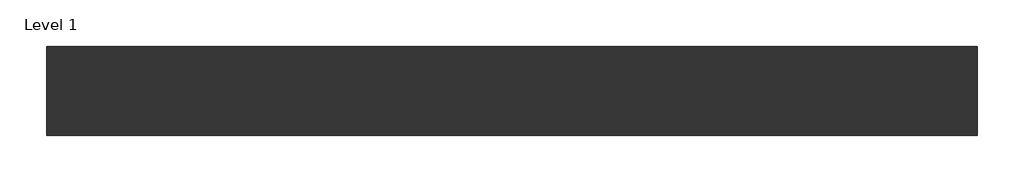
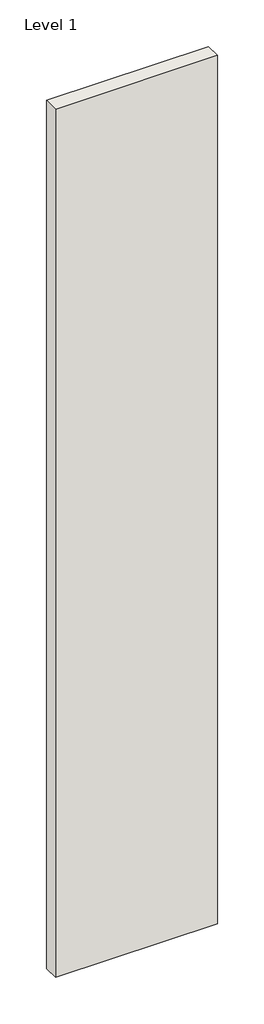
# One storey: 1 wall.
"""IFC4 building model written with IfcOpenShell, lengths in millimetres."""

from ifc_helpers import new_model, si_unit, origin, origin_with_axes, place, context, project, spatial, polyline, outline, extrude, element, save

model = new_model("IFC4")

# Units and contexts
model_context = context("Model", 3, world=origin())
ifc_project = project(units=[si_unit("LENGTHUNIT", "METRE", prefix="MILLI")], contexts=[model_context])

# Site, building, storey
site = spatial("IfcSite", under=ifc_project)
building = spatial("IfcBuilding", under=site)
storey = spatial("IfcBuildingStorey", under=building, Name="Level 1", Elevation=0.0)

# Wall
placement = place(None, origin())
element("IfcWall", 1, ObjectType="Trasdosado Simple – Placo® Habito® 95(70) HBT13 + BA13 + 70LM c/400", at=placement, inside=storey, context=model_context, shape_type="SweptSolid", body=[
    extrude(outline(polyline([(-27296.4711674, -89232.8970389), (-28496.4711674, -89232.8970389), (-28496.4711674, -89117.8970389), (-27296.4711674, -89117.8970389), (-27296.4711674, -89232.8970389)])), origin_with_axes(), (0.0, 0.0, 1.0), 6800.0),
])

save(model, "model.ifc")
